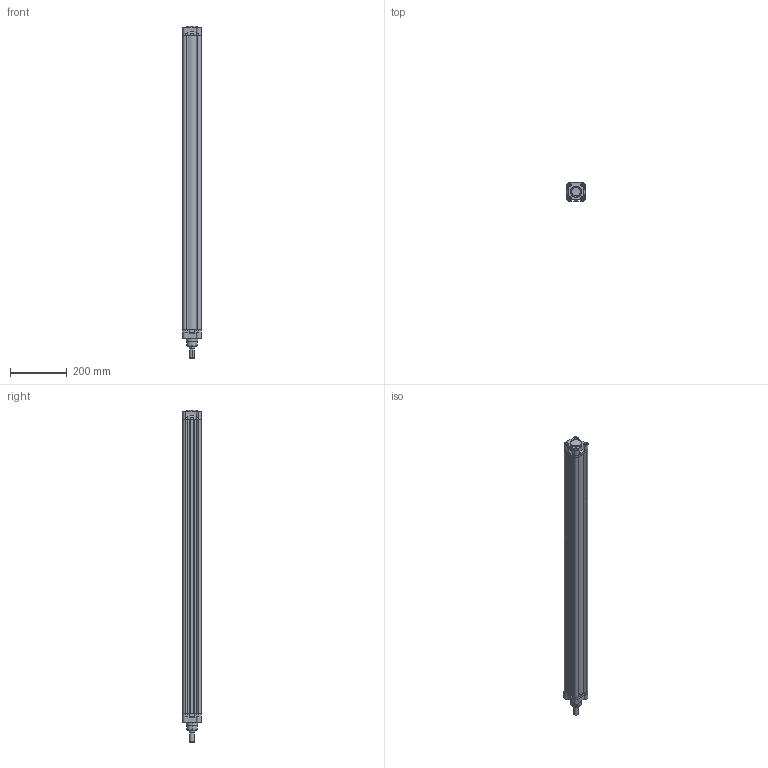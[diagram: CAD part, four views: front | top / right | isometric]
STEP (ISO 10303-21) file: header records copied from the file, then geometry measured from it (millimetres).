
FILE_DESCRIPTION (( 'STEP AP214' ), '1' );
FILE_NAME ('RIC50_1000_MY_WEB.STEP', '2020-07-05T17:37:58', ( '' ), ( '' ), 'SwSTEP 2.0', 'SolidWorks 2018', '' );
FILE_SCHEMA (( 'AUTOMOTIVE_DESIGN' ));
Length unit declared in the file: millimetre
Products named in the file (6): RIC50_1000_MY_WEB; 50_BORU; 50bogazkecesi; 20_MIL_WEB; 50_ARKA_KAPAK_WEB; 50_ON_KAPAK_WEB
Assembly tree (5 placements, depth 2):
  RIC50_1000_MY_WEB
    50_BORU
    50_ARKA_KAPAK_WEB
    50_ON_KAPAK_WEB
    20_MIL_WEB
    50bogazkecesi
Bounding box: 65 x 65 x 1165 mm (x, y, z)
Volume: 1613375.3 mm3; surface area: 661104.2 mm2
Topology: 5 solids, 5 shells, 576 faces, 1465 edges, 952 vertices
Faces by surface type: plane 265, cylinder 172, bspline 83, cone 40, torus 16
Entity records: 23952 total; most frequent: CARTESIAN_POINT 8155, ORIENTED_EDGE 2930, DIRECTION 2697, EDGE_CURVE 1465, VERTEX_POINT 952, AXIS2_PLACEMENT_3D 919, VECTOR 859, LINE 859
